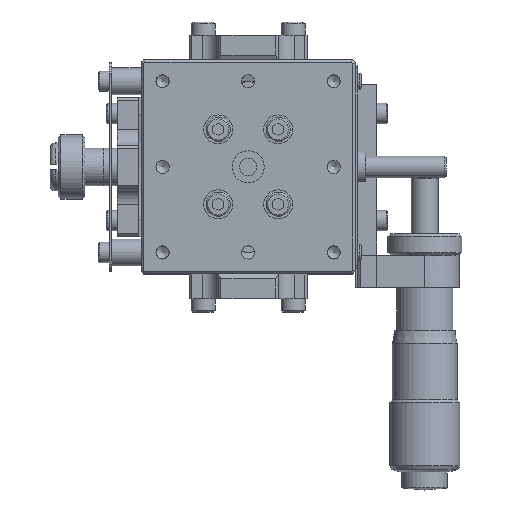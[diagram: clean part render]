
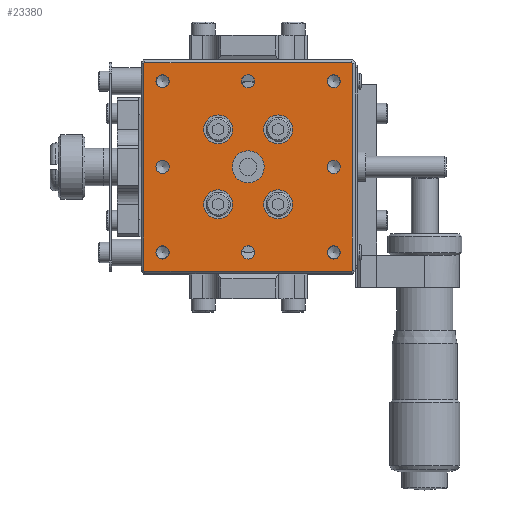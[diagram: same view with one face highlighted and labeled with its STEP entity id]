
A CAD part, top view. The second image highlights one B-rep face of the part: STEP entity #23380.
In plain terms, the highlighted planar face has unit normal (0, 0, 1).
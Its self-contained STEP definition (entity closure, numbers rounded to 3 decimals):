
#22888=CARTESIAN_POINT('',(19.293,19.5,-40.0));
#22889=VERTEX_POINT('',#22888);
#22890=CARTESIAN_POINT('',(19.5,19.293,-40.0));
#22891=VERTEX_POINT('',#22890);
#22892=CARTESIAN_POINT('',(19.293,19.5,-40.0));
#22893=DIRECTION('',(0.707,-0.707,0.0));
#22894=VECTOR('',#22893,0.293);
#22895=LINE('',#22892,#22894);
#22896=EDGE_CURVE('',#22889,#22891,#22895,.T.);
#22930=CARTESIAN_POINT('',(19.5,-19.293,-40.0));
#22931=VERTEX_POINT('',#22930);
#22932=CARTESIAN_POINT('',(19.5,19.293,-40.0));
#22933=DIRECTION('',(0.0,-1.0,0.0));
#22934=VECTOR('',#22933,38.586);
#22935=LINE('',#22932,#22934);
#22936=EDGE_CURVE('',#22891,#22931,#22935,.T.);
#22952=CARTESIAN_POINT('',(19.293,-19.5,-40.0));
#22953=VERTEX_POINT('',#22952);
#22954=CARTESIAN_POINT('',(19.5,-19.293,-40.0));
#22955=DIRECTION('',(-0.707,-0.707,0.0));
#22956=VECTOR('',#22955,0.293);
#22957=LINE('',#22954,#22956);
#22958=EDGE_CURVE('',#22931,#22953,#22957,.T.);
#22985=CARTESIAN_POINT('',(-19.293,-19.5,-40.0));
#22986=VERTEX_POINT('',#22985);
#22987=CARTESIAN_POINT('',(19.293,-19.5,-40.0));
#22988=DIRECTION('',(-1.0,0.0,0.0));
#22989=VECTOR('',#22988,38.586);
#22990=LINE('',#22987,#22989);
#22991=EDGE_CURVE('',#22953,#22986,#22990,.T.);
#23007=CARTESIAN_POINT('',(-19.5,-19.293,-40.0));
#23008=VERTEX_POINT('',#23007);
#23009=CARTESIAN_POINT('',(-19.293,-19.5,-40.0));
#23010=DIRECTION('',(-0.707,0.707,0.0));
#23011=VECTOR('',#23010,0.293);
#23012=LINE('',#23009,#23011);
#23013=EDGE_CURVE('',#22986,#23008,#23012,.T.);
#23036=CARTESIAN_POINT('',(-19.293,19.5,-40.0));
#23037=VERTEX_POINT('',#23036);
#23038=CARTESIAN_POINT('',(-19.293,19.5,-40.0));
#23039=DIRECTION('',(1.0,0.0,0.0));
#23040=VECTOR('',#23039,38.586);
#23041=LINE('',#23038,#23040);
#23042=EDGE_CURVE('',#23037,#22889,#23041,.T.);
#23069=CARTESIAN_POINT('',(-19.5,19.293,-40.0));
#23070=VERTEX_POINT('',#23069);
#23071=CARTESIAN_POINT('',(-19.5,-19.293,-40.0));
#23072=DIRECTION('',(0.0,1.0,0.0));
#23073=VECTOR('',#23072,38.586);
#23074=LINE('',#23071,#23073);
#23075=EDGE_CURVE('',#23008,#23070,#23074,.T.);
#23091=CARTESIAN_POINT('',(-19.5,19.293,-40.0));
#23092=DIRECTION('',(0.707,0.707,0.0));
#23093=VECTOR('',#23092,0.293);
#23094=LINE('',#23091,#23093);
#23095=EDGE_CURVE('',#23070,#23037,#23094,.T.);
#23222=CARTESIAN_POINT('',(0.0,20.0,-40.0));
#23223=DIRECTION('',(0.0,0.0,1.0));
#23224=DIRECTION('',(1.0,0.0,0.0));
#23225=AXIS2_PLACEMENT_3D('',#23222,#23223,#23224);
#23226=PLANE('',#23225);
#23227=ORIENTED_EDGE('',*,*,#22896,.F.);
#23228=ORIENTED_EDGE('',*,*,#23042,.F.);
#23229=ORIENTED_EDGE('',*,*,#23095,.F.);
#23230=ORIENTED_EDGE('',*,*,#23075,.F.);
#23231=ORIENTED_EDGE('',*,*,#23013,.F.);
#23232=ORIENTED_EDGE('',*,*,#22991,.F.);
#23233=ORIENTED_EDGE('',*,*,#22958,.F.);
#23234=ORIENTED_EDGE('',*,*,#22936,.F.);
#23235=EDGE_LOOP('',(#23227,#23228,#23229,#23230,#23231,#23232,#23233,#23234));
#23236=FACE_OUTER_BOUND('',#23235,.T.);
#23237=CARTESIAN_POINT('',(-17.23,0.,-40.0));
#23238=VERTEX_POINT('',#23237);
#23239=CARTESIAN_POINT('',(-16.0,0.,-40.0));
#23240=DIRECTION('',(0.0,0.0,-1.0));
#23241=DIRECTION('',(-1.0,0.0,0.0));
#23242=AXIS2_PLACEMENT_3D('',#23239,#23240,#23241);
#23243=CIRCLE('',#23242,1.23);
#23244=EDGE_CURVE('',#23238,#23238,#23243,.T.);
#23245=ORIENTED_EDGE('',*,*,#23244,.T.);
#23246=EDGE_LOOP('',(#23245));
#23247=FACE_BOUND('',#23246,.T.);
#23248=CARTESIAN_POINT('',(17.23,0.0,-40.0));
#23249=VERTEX_POINT('',#23248);
#23250=CARTESIAN_POINT('',(16.0,0.0,-40.0));
#23251=DIRECTION('',(0.0,0.0,-1.0));
#23252=DIRECTION('',(1.0,0.0,0.0));
#23253=AXIS2_PLACEMENT_3D('',#23250,#23251,#23252);
#23254=CIRCLE('',#23253,1.23);
#23255=EDGE_CURVE('',#23249,#23249,#23254,.T.);
#23256=ORIENTED_EDGE('',*,*,#23255,.T.);
#23257=EDGE_LOOP('',(#23256));
#23258=FACE_BOUND('',#23257,.T.);
#23259=CARTESIAN_POINT('',(-1.229,16.0,-40.0));
#23260=VERTEX_POINT('',#23259);
#23261=CARTESIAN_POINT('',(0.,16.0,-40.0));
#23262=DIRECTION('',(0.0,0.0,-1.0));
#23263=DIRECTION('',(-1.0,0.0,0.0));
#23264=AXIS2_PLACEMENT_3D('',#23261,#23262,#23263);
#23265=CIRCLE('',#23264,1.23);
#23266=EDGE_CURVE('',#23260,#23260,#23265,.T.);
#23267=ORIENTED_EDGE('',*,*,#23266,.T.);
#23268=EDGE_LOOP('',(#23267));
#23269=FACE_BOUND('',#23268,.T.);
#23270=CARTESIAN_POINT('',(1.23,-16.0,-40.0));
#23271=VERTEX_POINT('',#23270);
#23272=CARTESIAN_POINT('',(0.0,-16.0,-40.0));
#23273=DIRECTION('',(0.0,0.0,-1.0));
#23274=DIRECTION('',(1.0,0.0,0.0));
#23275=AXIS2_PLACEMENT_3D('',#23272,#23273,#23274);
#23276=CIRCLE('',#23275,1.23);
#23277=EDGE_CURVE('',#23271,#23271,#23276,.T.);
#23278=ORIENTED_EDGE('',*,*,#23277,.T.);
#23279=EDGE_LOOP('',(#23278));
#23280=FACE_BOUND('',#23279,.T.);
#23281=CARTESIAN_POINT('',(-16.,14.771,-40.0));
#23282=VERTEX_POINT('',#23281);
#23283=CARTESIAN_POINT('',(-16.,16.,-40.0));
#23284=DIRECTION('',(0.0,0.0,-1.0));
#23285=DIRECTION('',(0.0,-1.0,0.0));
#23286=AXIS2_PLACEMENT_3D('',#23283,#23284,#23285);
#23287=CIRCLE('',#23286,1.23);
#23288=EDGE_CURVE('',#23282,#23282,#23287,.T.);
#23289=ORIENTED_EDGE('',*,*,#23288,.T.);
#23290=EDGE_LOOP('',(#23289));
#23291=FACE_BOUND('',#23290,.T.);
#23292=CARTESIAN_POINT('',(14.771,16.0,-40.0));
#23293=VERTEX_POINT('',#23292);
#23294=CARTESIAN_POINT('',(16.0,16.0,-40.0));
#23295=DIRECTION('',(0.0,0.0,-1.0));
#23296=DIRECTION('',(-1.0,0.0,0.0));
#23297=AXIS2_PLACEMENT_3D('',#23294,#23295,#23296);
#23298=CIRCLE('',#23297,1.23);
#23299=EDGE_CURVE('',#23293,#23293,#23298,.T.);
#23300=ORIENTED_EDGE('',*,*,#23299,.T.);
#23301=EDGE_LOOP('',(#23300));
#23302=FACE_BOUND('',#23301,.T.);
#23303=CARTESIAN_POINT('',(16.0,-14.771,-40.0));
#23304=VERTEX_POINT('',#23303);
#23305=CARTESIAN_POINT('',(16.0,-16.0,-40.0));
#23306=DIRECTION('',(0.0,0.0,-1.0));
#23307=DIRECTION('',(0.0,1.0,0.0));
#23308=AXIS2_PLACEMENT_3D('',#23305,#23306,#23307);
#23309=CIRCLE('',#23308,1.23);
#23310=EDGE_CURVE('',#23304,#23304,#23309,.T.);
#23311=ORIENTED_EDGE('',*,*,#23310,.T.);
#23312=EDGE_LOOP('',(#23311));
#23313=FACE_BOUND('',#23312,.T.);
#23314=CARTESIAN_POINT('',(-14.771,-16.0,-40.0));
#23315=VERTEX_POINT('',#23314);
#23316=CARTESIAN_POINT('',(-16.0,-16.0,-40.0));
#23317=DIRECTION('',(0.0,0.0,-1.0));
#23318=DIRECTION('',(1.0,0.0,0.0));
#23319=AXIS2_PLACEMENT_3D('',#23316,#23317,#23318);
#23320=CIRCLE('',#23319,1.23);
#23321=EDGE_CURVE('',#23315,#23315,#23320,.T.);
#23322=ORIENTED_EDGE('',*,*,#23321,.T.);
#23323=EDGE_LOOP('',(#23322));
#23324=FACE_BOUND('',#23323,.T.);
#23325=CARTESIAN_POINT('',(2.9,-7.,-40.0));
#23326=VERTEX_POINT('',#23325);
#23327=CARTESIAN_POINT('',(5.6,-7.,-40.0));
#23328=DIRECTION('',(0.0,0.0,-1.0));
#23329=DIRECTION('',(-1.0,0.0,0.0));
#23330=AXIS2_PLACEMENT_3D('',#23327,#23328,#23329);
#23331=CIRCLE('',#23330,2.7);
#23332=EDGE_CURVE('',#23326,#23326,#23331,.T.);
#23333=ORIENTED_EDGE('',*,*,#23332,.T.);
#23334=EDGE_LOOP('',(#23333));
#23335=FACE_BOUND('',#23334,.T.);
#23336=CARTESIAN_POINT('',(-8.3,-7.,-40.0));
#23337=VERTEX_POINT('',#23336);
#23338=CARTESIAN_POINT('',(-5.6,-7.,-40.0));
#23339=DIRECTION('',(0.0,0.0,-1.0));
#23340=DIRECTION('',(-1.0,0.0,0.0));
#23341=AXIS2_PLACEMENT_3D('',#23338,#23339,#23340);
#23342=CIRCLE('',#23341,2.7);
#23343=EDGE_CURVE('',#23337,#23337,#23342,.T.);
#23344=ORIENTED_EDGE('',*,*,#23343,.T.);
#23345=EDGE_LOOP('',(#23344));
#23346=FACE_BOUND('',#23345,.T.);
#23347=CARTESIAN_POINT('',(-2.9,7.,-40.0));
#23348=VERTEX_POINT('',#23347);
#23349=CARTESIAN_POINT('',(-5.6,7.,-40.0));
#23350=DIRECTION('',(0.0,0.0,-1.0));
#23351=DIRECTION('',(1.0,0.0,0.0));
#23352=AXIS2_PLACEMENT_3D('',#23349,#23350,#23351);
#23353=CIRCLE('',#23352,2.7);
#23354=EDGE_CURVE('',#23348,#23348,#23353,.T.);
#23355=ORIENTED_EDGE('',*,*,#23354,.T.);
#23356=EDGE_LOOP('',(#23355));
#23357=FACE_BOUND('',#23356,.T.);
#23358=CARTESIAN_POINT('',(8.3,7.,-40.0));
#23359=VERTEX_POINT('',#23358);
#23360=CARTESIAN_POINT('',(5.6,7.,-40.0));
#23361=DIRECTION('',(0.0,0.0,-1.0));
#23362=DIRECTION('',(1.0,0.0,0.0));
#23363=AXIS2_PLACEMENT_3D('',#23360,#23361,#23362);
#23364=CIRCLE('',#23363,2.7);
#23365=EDGE_CURVE('',#23359,#23359,#23364,.T.);
#23366=ORIENTED_EDGE('',*,*,#23365,.T.);
#23367=EDGE_LOOP('',(#23366));
#23368=FACE_BOUND('',#23367,.T.);
#23369=CARTESIAN_POINT('',(3.,0.0,-40.0));
#23370=VERTEX_POINT('',#23369);
#23371=CARTESIAN_POINT('',(0.0,0.0,-40.0));
#23372=DIRECTION('',(0.0,0.0,-1.0));
#23373=DIRECTION('',(1.0,0.0,0.0));
#23374=AXIS2_PLACEMENT_3D('',#23371,#23372,#23373);
#23375=CIRCLE('',#23374,3.);
#23376=EDGE_CURVE('',#23370,#23370,#23375,.T.);
#23377=ORIENTED_EDGE('',*,*,#23376,.T.);
#23378=EDGE_LOOP('',(#23377));
#23379=FACE_BOUND('',#23378,.T.);
#23380=ADVANCED_FACE('',(#23236,#23247,#23258,#23269,#23280,#23291,#23302,#23313,#23324,#23335,#23346,#23357,#23368,#23379),#23226,.T.);
